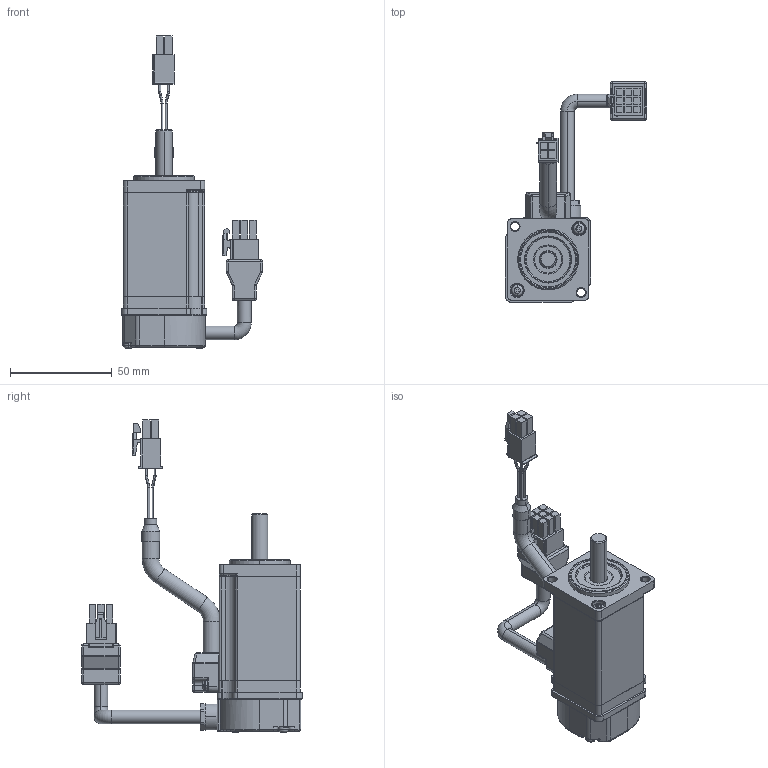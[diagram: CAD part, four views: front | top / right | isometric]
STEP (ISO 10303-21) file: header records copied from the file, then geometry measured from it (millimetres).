
FILE_DESCRIPTION((''),'2;1');
FILE_NAME('YM453348_2_A_ASM','2007-08-21T',('servo'),(''),'PRO/ENGINEER BY PARAMETRIC TECHNOLOGY CORPORATION, 2006510','PRO/ENGINEER BY PARAMETRIC TECHNOLOGY CORPORATION, 2006510','');
FILE_SCHEMA(('CONFIG_CONTROL_DESIGN'));
Length unit declared in the file: millimetre
Products named in the file (17): YM451590_2_; YM452545_1; YM451324_1_A; YM541444_1; YM452431_1_A; YM541783_1_A; YM451835_1_C; YM436118_1_C; YM436117_1_C; YM453438_1_B; YM541756_1; YM453149_1_B; YM541424_2; YM542295_3_B; YM541420_8_D; NJ2_6X8; YM453348_2_A_ASM
Assembly tree (20 placements, depth 2):
  YM453348_2_A_ASM
    YM451590_2_
    YM452545_1
    YM451324_1_A
    YM541444_1
    YM452431_1_A
    YM541783_1_A
    YM451835_1_C
    YM436118_1_C
    YM436117_1_C
    YM453438_1_B
    YM541756_1
    YM453149_1_B
    YM541424_2  x2
    YM542295_3_B  x2
    YM541420_8_D  x2
    NJ2_6X8  x2
Bounding box: 69.5 x 108.7 x 153.7 mm (x, y, z)
Volume: 141203 mm3; surface area: 51819.8 mm2
Topology: 20 solids, 20 shells, 1001 faces, 2404 edges, 1498 vertices
Faces by surface type: plane 448, cylinder 356, torus 86, cone 66, sphere 34, bspline 11
Entity records: 27951 total; most frequent: CARTESIAN_POINT 5529, DIRECTION 4902, ORIENTED_EDGE 4424, EDGE_CURVE 2212, AXIS2_PLACEMENT_3D 1810, VERTEX_POINT 1372, VECTOR 1282, LINE 1282
